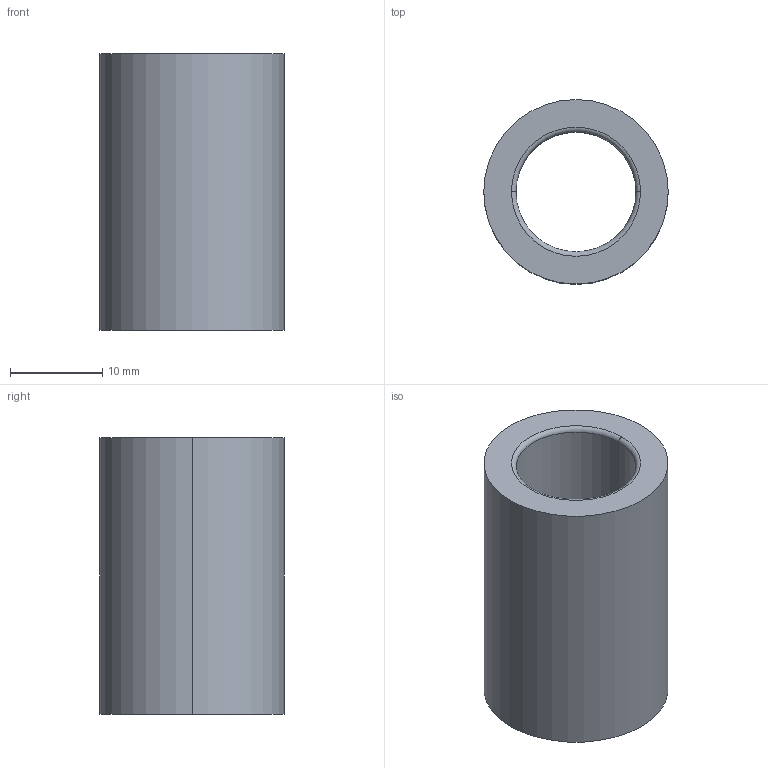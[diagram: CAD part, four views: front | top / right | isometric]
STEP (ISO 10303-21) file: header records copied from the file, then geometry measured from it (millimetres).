
FILE_DESCRIPTION(/* description */ (''),/* implementation_level */ '2;1');
FILE_NAME(/* name */ '3d_sgbz13-30_00300_r00.stp',/* time_stamp */ '2011-01-10T14:11:12+09:00',/* author */ ('MISUMI'),/* organization */ (''),/* preprocessor_version */ 'ST-DEVELOPER v11',/* originating_system */ 'UGS - NX 5.0',/* authorisation */ '');
FILE_SCHEMA (('CONFIG_CONTROL_DESIGN'));
Length unit declared in the file: millimetre
Products named in the file (1): 3d_sgbz13-30_00300_r00
Bounding box: 20 x 20 x 30 mm (x, y, z)
Volume: 5438.4 mm3; surface area: 3455.7 mm2
Topology: 1 solids, 1 shells, 10 faces, 20 edges, 12 vertices
Faces by surface type: cylinder 4, torus 4, plane 2
Entity records: 358 total; most frequent: DIRECTION 58, CARTESIAN_POINT 43, ORIENTED_EDGE 40, AXIS2_PLACEMENT_3D 27, EDGE_CURVE 20, CIRCLE 16, EDGE_LOOP 12, VERTEX_POINT 12
